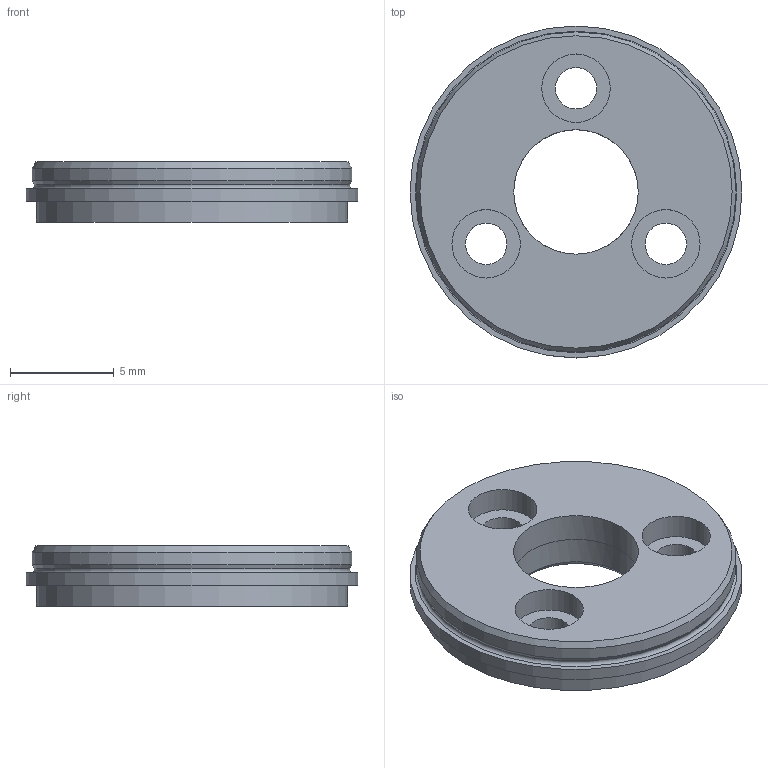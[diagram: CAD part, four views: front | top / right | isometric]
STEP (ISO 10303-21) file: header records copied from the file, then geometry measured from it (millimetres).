
FILE_DESCRIPTION(/* description */ (''),/* implementation_level */ '2;1');
FILE_NAME(/* name */ '16GPT_flange_b_416.5955.01.stp',/* time_stamp */ '2024-11-12T10:46:19+01:00',/* author */ ('DR. FRITZ FAULHABER GmbH & Co. KG'),/* organization */ ('DR. FRITZ FAULHABER GmbH & Co. KG'),/* preprocessor_version */ 'ST-DEVELOPER v19.3',/* originating_system */ 'SIEMENS PLM Software NX2212.4000',/* authorisation */ '');
FILE_SCHEMA (('AUTOMOTIVE_DESIGN { 1 0 10303 214 3 1 1 1 }'));
Length unit declared in the file: millimetre
Products named in the file (1): A_objects
Bounding box: 16 x 16 x 2.9 mm (x, y, z)
Volume: 408.1 mm3; surface area: 585.9 mm2
Topology: 1 solids, 1 shells, 22 faces, 44 edges, 29 vertices
Faces by surface type: cylinder 11, plane 7, cone 3, torus 1
Full cylindrical faces by diameter (mm): 2 x3, 3.3 x3, 6 x2, 15 x1, 15.4 x1, 16 x1
Entity records: 536 total; most frequent: DIRECTION 94, CARTESIAN_POINT 90, FACE_BOUND 50, EDGE_LOOP 50, ORIENTED_EDGE 50, AXIS2_PLACEMENT_3D 47, VERTEX_POINT 25, EDGE_CURVE 25
